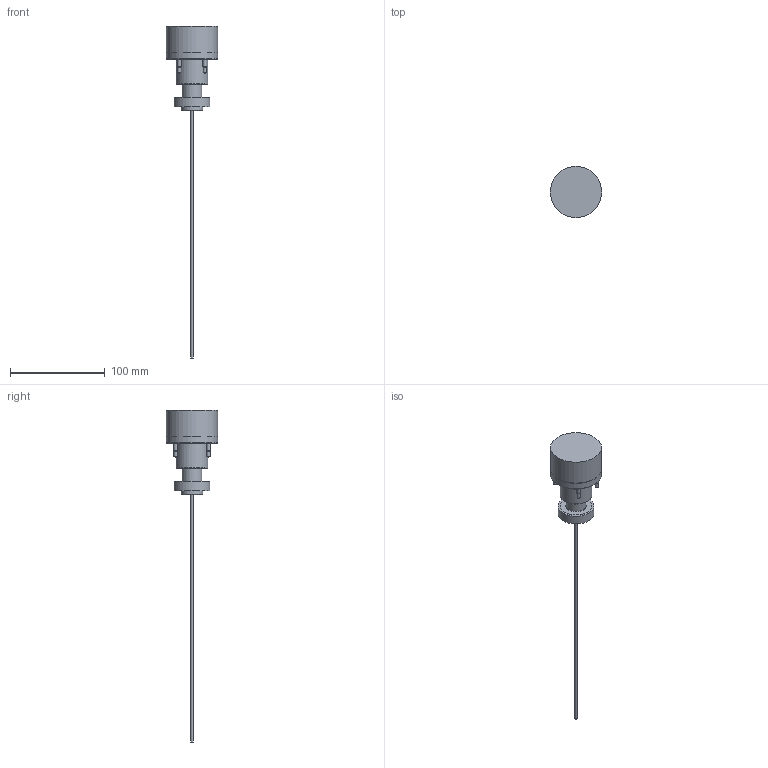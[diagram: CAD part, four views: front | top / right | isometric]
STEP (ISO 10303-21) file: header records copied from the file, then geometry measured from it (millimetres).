
FILE_DESCRIPTION(/* description */ (''),/* implementation_level */ '2;1');
FILE_NAME(/* name */ 'MVG25P1-2.5',/* time_stamp */ '2017-08-21T10:46:42+12:00',/* author */ (''),/* organization */ (''),/* preprocessor_version */ 'ST-DEVELOPER v9',/* originating_system */ 'UGS - NX 4.0',/* authorisation */ '');
FILE_SCHEMA (('CONFIG_CONTROL_DESIGN'));
Length unit declared in the file: millimetre
Products named in the file (1): mattAFE805jq
Bounding box: 54 x 54 x 350.5 mm (x, y, z)
Volume: 172583.9 mm3; surface area: 35075.7 mm2
Topology: 8 solids, 8 shells, 108 faces, 206 edges, 133 vertices
Faces by surface type: plane 59, cylinder 33, cone 14, torus 2
Full cylindrical faces by diameter (mm): 2.5 x1, 3.3 x6, 4 x4, 4.3 x4, 6 x1, 7 x4, 8 x4, 17.5 x1, 21 x1, 23 x1, 31 x1, 33 x1, 33.5 x1, 38 x1, 53.8 x1, 54 x1
Entity records: 2528 total; most frequent: DIRECTION 446, CARTESIAN_POINT 389, ORIENTED_EDGE 300, EDGE_LOOP 188, AXIS2_PLACEMENT_3D 187, EDGE_CURVE 150, VERTEX_POINT 130, FACE_BOUND 119
